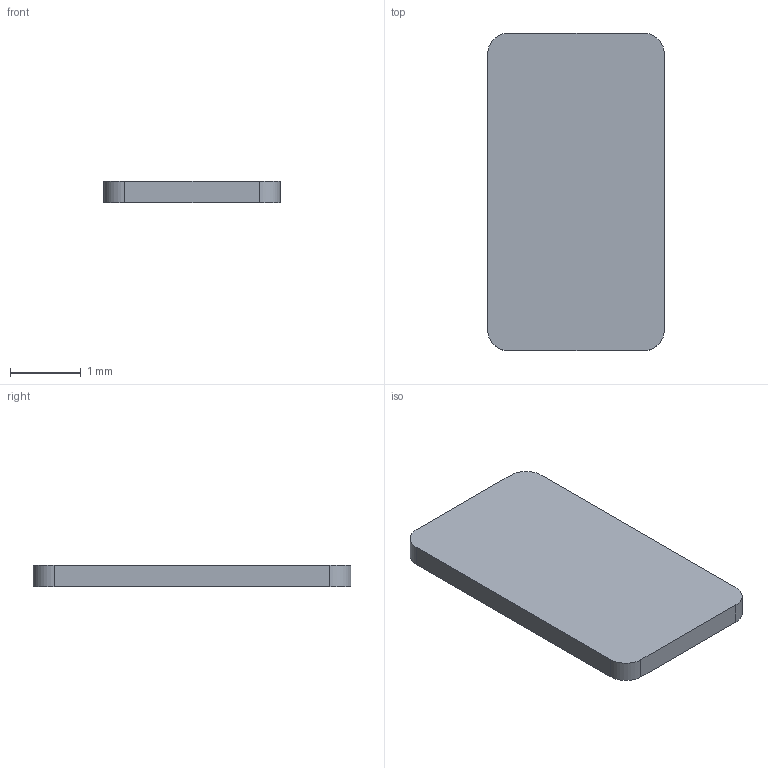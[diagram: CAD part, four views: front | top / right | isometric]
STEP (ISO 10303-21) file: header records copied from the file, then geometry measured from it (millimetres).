
FILE_DESCRIPTION(('Open CASCADE Model'),'2;1');
FILE_NAME('C27_R2_PCB_Front_Seat_2_FREE_STATE','2026-09-10T02:58:45',( 'Author'),('Open CASCADE'),'Open CASCADE STEP processor 7.9', 'build123d','Unknown');
FILE_SCHEMA(('AUTOMOTIVE_DESIGN { 1 0 10303 214 1 1 1 1 }'));
Length unit declared in the file: millimetre
Products named in the file (1): C27_R2_PCB_Front_Seat_2_FREE_STATE
Bounding box: 2.5 x 4.5 x 0.3 mm (x, y, z)
Volume: 3.4 mm3; surface area: 26.4 mm2
Topology: 1 solids, 1 shells, 10 faces, 24 edges, 16 vertices
Faces by surface type: plane 6, cylinder 4
Entity records: 629 total; most frequent: DIRECTION 102, CARTESIAN_POINT 99, LINE 56, VECTOR 56, ORIENTED_EDGE 48, PCURVE 48, DEFINITIONAL_REPRESENTATION 48, EDGE_CURVE 24
